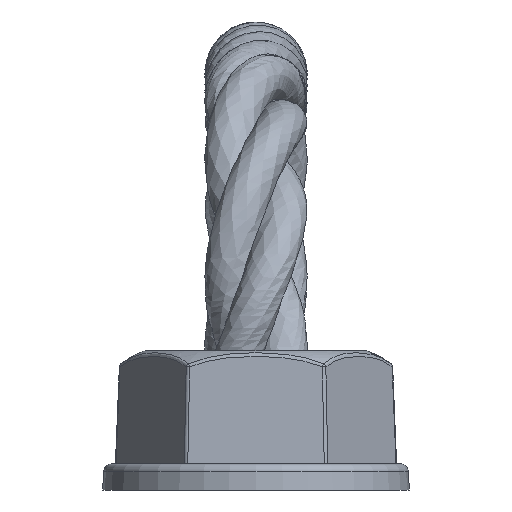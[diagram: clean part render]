
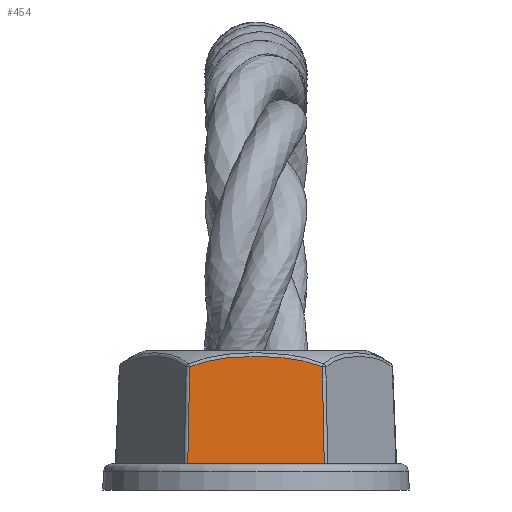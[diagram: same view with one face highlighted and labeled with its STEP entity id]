
A CAD part, front view. The second image highlights one B-rep face of the part: STEP entity #454.
In plain terms, the highlighted planar face has unit normal (0, -0.999, 0.035).
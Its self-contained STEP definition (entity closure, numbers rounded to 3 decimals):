
#454 = ADVANCED_FACE( '', ( #984 ), #985, .T. );
#984 = FACE_OUTER_BOUND( '', #5345, .T. );
#985 = PLANE( '', #5346 );
#5345 = EDGE_LOOP( '', ( #8825, #8826, #8827, #8828 ) );
#5346 = AXIS2_PLACEMENT_3D( '', #8829, #8830, #8831 );
#8825 = ORIENTED_EDGE( '', *, *, #10243, .F. );
#8826 = ORIENTED_EDGE( '', *, *, #10244, .T. );
#8827 = ORIENTED_EDGE( '', *, *, #10245, .T. );
#8828 = ORIENTED_EDGE( '', *, *, #10060, .T. );
#8829 = CARTESIAN_POINT( '', ( 0., -15., 0. ) );
#8830 = DIRECTION( '', ( 0., -0.999, 0.035 ) );
#8831 = DIRECTION( '', ( 0., -0.035, -0.999 ) );
#10060 = EDGE_CURVE( '', #10811, #10809, #10812, .F. );
#10243 = EDGE_CURVE( '', #11109, #10809, #11110, .F. );
#10244 = EDGE_CURVE( '', #11109, #10750, #11111, .T. );
#10245 = EDGE_CURVE( '', #10750, #10811, #11112, .T. );
#10750 = VERTEX_POINT( '', #11880 );
#10809 = VERTEX_POINT( '', #11962 );
#10811 = VERTEX_POINT( '', #11964 );
#10812 = LINE( '', #11965, #11966 );
#11109 = VERTEX_POINT( '', #13405 );
#11110 = LINE( '', #13406, #13407 );
#11111 = LINE( '', #13408, #13409 );
#11112 = B_SPLINE_CURVE_WITH_KNOTS( '', 3, ( #13410, #13411, #13412, #13413, #13414, #13415, #13416, #13417, #13418, #13419, #13420, #13421, #13422, #13423, #13424, #13425, #13426, #13427, #13428, #13429, #13430, #13431, #13432, #13433, #13434, #13435, #13436, #13437, #13438, #13439, #13440, #13441, #13442, #13443, #13444, #13445, #13446, #13447, #13448, #13449, #13450, #13451, #13452, #13453 ), .UNSPECIFIED., .F., .F., ( 4, 1, 1, 1, 1, 1, 2, 1, 2, 1, 2, 2, 1, 1, 1, 1, 1, 1, 1, 1, 1, 1, 1, 1, 1, 2, 1, 2, 2, 2, 1, 1, 1, 4 ), ( 0., 0.001, 0.001, 0.002, 0.002, 0.003, 0.003, 0.004, 0.005, 0.005, 0.006, 0.006, 0.006, 0.007, 0.007, 0.008, 0.008, 0.009, 0.009, 0.01, 0.01, 0.011, 0.011, 0.012, 0.012, 0.013, 0.013, 0.013, 0.013, 0.014, 0.015, 0.015, 0.016, 0.016 ), .UNSPECIFIED. );
#11880 = CARTESIAN_POINT( '', ( 8.089, -14.51, 14.023 ) );
#11962 = CARTESIAN_POINT( '', ( -8.327, -14.923, 2.197 ) );
#11964 = CARTESIAN_POINT( '', ( -8.089, -14.51, 14.023 ) );
#11965 = CARTESIAN_POINT( '', ( -8.368, -14.994, 0.169 ) );
#11966 = VECTOR( '', #14771, 1000. );
#13405 = CARTESIAN_POINT( '', ( 8.327, -14.923, 2.197 ) );
#13406 = CARTESIAN_POINT( '', ( 0., -14.923, 2.197 ) );
#13407 = VECTOR( '', #15011, 1000. );
#13408 = CARTESIAN_POINT( '', ( 8.368, -14.994, 0.169 ) );
#13409 = VECTOR( '', #15012, 1000. );
#13410 = CARTESIAN_POINT( '', ( 8.089, -14.51, 14.023 ) );
#13411 = CARTESIAN_POINT( '', ( 7.929, -14.508, 14.09 ) );
#13412 = CARTESIAN_POINT( '', ( 7.606, -14.504, 14.215 ) );
#13413 = CARTESIAN_POINT( '', ( 7.118, -14.498, 14.382 ) );
#13414 = CARTESIAN_POINT( '', ( 6.626, -14.493, 14.531 ) );
#13415 = CARTESIAN_POINT( '', ( 6.13, -14.488, 14.663 ) );
#13416 = CARTESIAN_POINT( '', ( 5.631, -14.484, 14.78 ) );
#13417 = CARTESIAN_POINT( '', ( 5.296, -14.482, 14.848 ) );
#13418 = CARTESIAN_POINT( '', ( 4.792, -14.478, 14.944 ) );
#13419 = CARTESIAN_POINT( '', ( 4.117, -14.474, 15.054 ) );
#13420 = CARTESIAN_POINT( '', ( 3.435, -14.472, 15.134 ) );
#13421 = CARTESIAN_POINT( '', ( 3.007, -14.47, 15.176 ) );
#13422 = CARTESIAN_POINT( '', ( 2.878, -14.47, 15.188 ) );
#13423 = CARTESIAN_POINT( '', ( 2.749, -14.469, 15.199 ) );
#13424 = CARTESIAN_POINT( '', ( 2.663, -14.469, 15.206 ) );
#13425 = CARTESIAN_POINT( '', ( 2.621, -14.469, 15.209 ) );
#13426 = CARTESIAN_POINT( '', ( 2.406, -14.468, 15.226 ) );
#13427 = CARTESIAN_POINT( '', ( 2.062, -14.467, 15.251 ) );
#13428 = CARTESIAN_POINT( '', ( 1.548, -14.466, 15.278 ) );
#13429 = CARTESIAN_POINT( '', ( 1.033, -14.466, 15.298 ) );
#13430 = CARTESIAN_POINT( '', ( 0.519, -14.465, 15.309 ) );
#13431 = CARTESIAN_POINT( '', ( 0.005, -14.465, 15.313 ) );
#13432 = CARTESIAN_POINT( '', ( -0.508, -14.465, 15.309 ) );
#13433 = CARTESIAN_POINT( '', ( -1.021, -14.466, 15.298 ) );
#13434 = CARTESIAN_POINT( '', ( -1.534, -14.466, 15.279 ) );
#13435 = CARTESIAN_POINT( '', ( -2.047, -14.467, 15.252 ) );
#13436 = CARTESIAN_POINT( '', ( -2.559, -14.469, 15.216 ) );
#13437 = CARTESIAN_POINT( '', ( -3.07, -14.47, 15.171 ) );
#13438 = CARTESIAN_POINT( '', ( -3.582, -14.472, 15.116 ) );
#13439 = CARTESIAN_POINT( '', ( -4.093, -14.474, 15.051 ) );
#13440 = CARTESIAN_POINT( '', ( -4.433, -14.476, 15. ) );
#13441 = CARTESIAN_POINT( '', ( -4.688, -14.478, 14.958 ) );
#13442 = CARTESIAN_POINT( '', ( -4.816, -14.478, 14.937 ) );
#13443 = CARTESIAN_POINT( '', ( -4.943, -14.479, 14.914 ) );
#13444 = CARTESIAN_POINT( '', ( -5.028, -14.48, 14.899 ) );
#13445 = CARTESIAN_POINT( '', ( -5.071, -14.48, 14.891 ) );
#13446 = CARTESIAN_POINT( '', ( -5.453, -14.483, 14.818 ) );
#13447 = CARTESIAN_POINT( '', ( -5.79, -14.485, 14.745 ) );
#13448 = CARTESIAN_POINT( '', ( -6.291, -14.489, 14.62 ) );
#13449 = CARTESIAN_POINT( '', ( -6.624, -14.493, 14.532 ) );
#13450 = CARTESIAN_POINT( '', ( -7.118, -14.498, 14.382 ) );
#13451 = CARTESIAN_POINT( '', ( -7.607, -14.504, 14.214 ) );
#13452 = CARTESIAN_POINT( '', ( -7.929, -14.508, 14.089 ) );
#13453 = CARTESIAN_POINT( '', ( -8.089, -14.51, 14.023 ) );
#14771 = DIRECTION( '', ( 0.02, 0.035, 0.999 ) );
#15011 = DIRECTION( '', ( 1., 0., 0. ) );
#15012 = DIRECTION( '', ( -0.02, 0.035, 0.999 ) );
